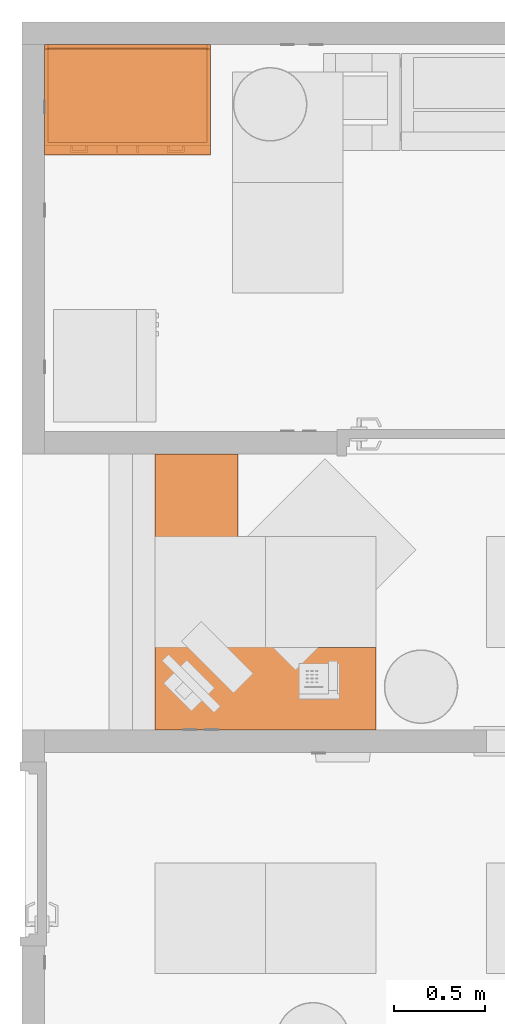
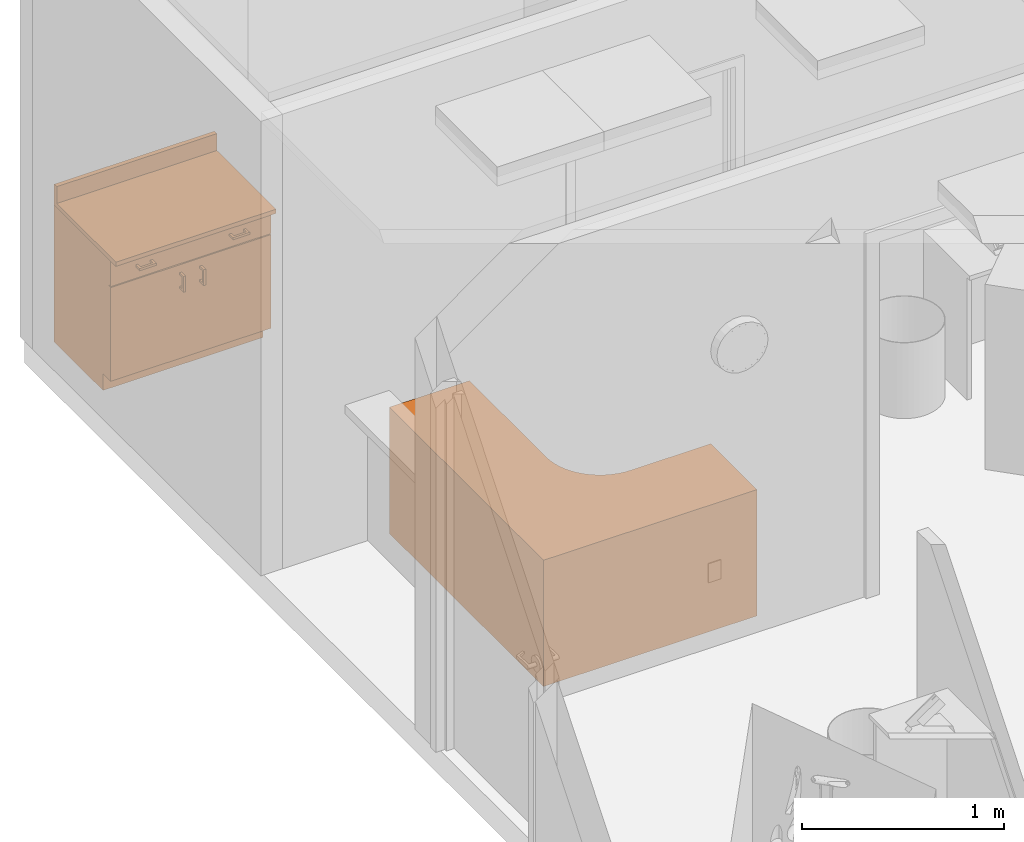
# One storey, part 11 of 20: 3 proxies.
"""IFC2X3 building model written with IfcOpenShell, lengths in feet."""

from ifc_helpers import new_model, entity, si_unit, converted_unit, derived_unit, direction, frame, frame_2d, origin, origin_2d_with_axis, place, context, subcontext, project, spatial, polyline, circle_curve, parameter, trimmed, segment, composite_curve, rectangle, outline, extrude, source, transform, mapped, type_object, type_shapes, element, save


model = new_model("IFC2X3")

# Units and contexts
model_context = context("Model", 3, precision=0.0001, world=origin(), true_north=direction((6.12303176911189e-17, 1.0)))
body_context = subcontext(model_context, "Body", "Model", "MODEL_VIEW")
ifc_project = project(units=[converted_unit("LENGTHUNIT", "FOOT", entity("IfcRatioMeasure", 0.3048), si_unit("LENGTHUNIT", "METRE"), dimensions=[1, 0, 0, 0, 0, 0, 0]), converted_unit("AREAUNIT", "SQUARE FOOT", entity("IfcRatioMeasure", 0.09290304), si_unit("AREAUNIT", "SQUARE_METRE"), dimensions=[2, 0, 0, 0, 0, 0, 0]), converted_unit("VOLUMEUNIT", "CUBIC FOOT", entity("IfcRatioMeasure", 0.028316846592), si_unit("VOLUMEUNIT", "CUBIC_METRE"), dimensions=[3, 0, 0, 0, 0, 0, 0]), converted_unit("PLANEANGLEUNIT", "DEGREE", entity("IfcRatioMeasure", 0.0174532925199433), si_unit("PLANEANGLEUNIT", "RADIAN"), dimensions=[0, 0, 0, 0, 0, 0, 0]), si_unit("MASSUNIT", "GRAM", prefix="KILO"), derived_unit("MASSDENSITYUNIT", [(si_unit("MASSUNIT", "GRAM", prefix="KILO"), 1), (si_unit("LENGTHUNIT", "METRE"), -3)]), si_unit("TIMEUNIT", "SECOND"), si_unit("FREQUENCYUNIT", "HERTZ"), si_unit("THERMODYNAMICTEMPERATUREUNIT", "DEGREE_CELSIUS"), derived_unit("THERMALTRANSMITTANCEUNIT", [(si_unit("MASSUNIT", "GRAM", prefix="KILO"), 1), (si_unit("THERMODYNAMICTEMPERATUREUNIT", "KELVIN"), -1), (si_unit("TIMEUNIT", "SECOND"), -3)]), derived_unit("VOLUMETRICFLOWRATEUNIT", [(si_unit("LENGTHUNIT", "METRE"), 3), (si_unit("TIMEUNIT", "SECOND"), -1)]), si_unit("ELECTRICCURRENTUNIT", "AMPERE"), si_unit("ELECTRICVOLTAGEUNIT", "VOLT"), si_unit("POWERUNIT", "WATT"), si_unit("FORCEUNIT", "NEWTON"), si_unit("ILLUMINANCEUNIT", "LUX"), si_unit("LUMINOUSFLUXUNIT", "LUMEN"), si_unit("LUMINOUSINTENSITYUNIT", "CANDELA"), derived_unit("USERDEFINED", [(si_unit("MASSUNIT", "GRAM", prefix="KILO"), -1), (si_unit("LENGTHUNIT", "METRE"), -2), (si_unit("TIMEUNIT", "SECOND"), 3), (si_unit("LUMINOUSFLUXUNIT", "LUMEN"), 1)]), derived_unit("LINEARVELOCITYUNIT", [(si_unit("LENGTHUNIT", "METRE"), 1), (si_unit("TIMEUNIT", "SECOND"), -1)]), si_unit("PRESSUREUNIT", "PASCAL"), derived_unit("USERDEFINED", [(si_unit("LENGTHUNIT", "METRE"), -2), (si_unit("MASSUNIT", "GRAM", prefix="KILO"), 1), (si_unit("TIMEUNIT", "SECOND"), -2)])], contexts=[model_context])

# Site, building, storey, space
site_placement = place(None, origin())
site = spatial("IfcSite", under=ifc_project, at=site_placement, Name="Default", CompositionType="ELEMENT")
building_placement = place(site_placement, origin())
building = spatial("IfcBuilding", under=site, at=building_placement, Name="OUTPATIENT / PACT CLINIC (Ch. 265)", CompositionType="ELEMENT")
storey_placement = place(building_placement, origin())
storey = spatial("IfcBuildingStorey", under=building, at=storey_placement, Name="DATUM", CompositionType="ELEMENT", Elevation=0.0)
space_1_placement = place(storey_placement, origin())
space_1 = spatial("IfcSpace", under=storey, at=space_1_placement, CompositionType="ELEMENT", InteriorOrExteriorSpace="INTERNAL")

# Proxy
building_element_proxy_type_1 = type_object("IfcBuildingElementProxyType", Name="CT020 - Countertop, Solid Surface - No Opening", PredefinedType="NOTDEFINED")
shared_shape_1 = source(origin(), body_context, "Body", "SweptSolid", [
    extrude(rectangle(XDim=2.99999999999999, YDim=0.083333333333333, at=frame_2d((0.0, -5.55111512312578e-17), x_axis=(1.0, 0.0))), frame((0.0, 0.958333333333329, 0.0833333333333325)), (0.0, 0.0, 1.0), 0.333333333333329),
    extrude(rectangle(XDim=2.99999999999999, YDim=2.0, at=origin_2d_with_axis()), origin(), (0.0, 0.0, 1.0), 0.0833333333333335),
])
type_shapes(building_element_proxy_type_1, [shared_shape_1])
proxy_1_placement = place(space_1_placement, frame((57.7641134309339, -843.112339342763, 2.70833333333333)))
element("IfcBuildingElementProxy", 1, at=proxy_1_placement, inside=space_1, type_object=building_element_proxy_type_1, Name="CT020 - Countertop, Solid Surface - No Opening:CT020 - Countertop, Solid Surface - No Opening", ObjectType="CT020 - Countertop, Solid Surface - No Opening", context=body_context, shape_type="MappedRepresentation", body=[
    mapped(shared_shape_1, transform((0.0, 0.0, 0.0), scale=1.0)),
])

# Space
space_2_placement = place(storey_placement, origin())
space_2 = spatial("IfcSpace", under=storey, at=space_2_placement, CompositionType="ELEMENT", InteriorOrExteriorSpace="INTERNAL")

# Proxies
building_element_proxy_type_2 = type_object("IfcBuildingElementProxyType", Name="E0130 - Workstation, Documentation, Operating, L-Shaped", PredefinedType="NOTDEFINED")
shared_shape_2 = source(origin(), body_context, "Body", "SweptSolid", [
    extrude(rectangle(XDim=0.0292050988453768, YDim=0.833333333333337, at=frame_2d((-5.55111512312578e-17, 0.0), x_axis=(1.0, 0.0))), frame((1.91666666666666, 0.621546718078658, 0.250000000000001), z_axis=(0.0, 0.0, 1.0), x_axis=(0.0, 1.0, 0.0)), (0.0, 0.0, 1.0), 1.83333333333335),
    extrude(outline(polyline([(-1.20833333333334, -0.583333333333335), (1.20833333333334, -0.583333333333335), (1.20833333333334, 0.583333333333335), (-1.20833333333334, 0.583333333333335), (-1.20833333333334, -0.583333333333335)]), holes=[polyline([(-0.875000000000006, -0.416666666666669), (-0.875000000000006, 0.416666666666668), (0.958333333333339, 0.416666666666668), (0.958333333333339, -0.416666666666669), (-0.875000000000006, -0.416666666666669)])]), frame((1.91666666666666, 0.583333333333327, 1.20833333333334), z_axis=(0.0, 1.0, 0.0), x_axis=(0.0, 0.0, -1.0)), (0.0, 0.0, 1.0), 0.0833333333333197),
    extrude(outline(polyline([(-0.305555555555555, 0.361111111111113), (0.694444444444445, 0.361111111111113), (0.694444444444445, 0.444444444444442), (-0.388888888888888, 0.444444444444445), (-0.388888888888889, -0.805555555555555), (-0.305555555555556, -0.805555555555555), (-0.305555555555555, 0.361111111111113)])), frame((1.72222222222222, 1.4722222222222, 0.0)), (0.0, 0.0, 1.0), 2.41666666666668),
    extrude(outline(polyline([(-1.86666666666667, -2.28333333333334), (2.13333333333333, -2.28333333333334), (2.13333333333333, -0.866666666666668), (2.05, -0.866666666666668), (2.05, -2.2), (-1.78333333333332, -2.20000000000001), (-1.78333333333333, 2.63333333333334), (-0.533333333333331, 2.63333333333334), (-0.53333333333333, 2.71666666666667), (-1.86666666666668, 2.71666666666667), (-1.86666666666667, -2.28333333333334)])), frame((-0.216666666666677, 0.133333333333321, 0.0), z_axis=(0.0, 0.0, 1.0), x_axis=(0.0, -1.0, 0.0)), (0.0, 0.0, 1.0), 2.41666666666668),
    extrude(outline(composite_curve([segment(polyline([(-2.78571428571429, -1.92857142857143), (2.21428571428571, -1.92857142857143)]), True, "CONTINUOUS"), segment(polyline([(2.21428571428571, -1.92857142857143), (2.21428571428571, 2.07142857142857)]), True, "CONTINUOUS"), segment(polyline([(2.21428571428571, 2.07142857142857), (0.714285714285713, 2.07142857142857)]), True, "CONTINUOUS"), segment(polyline([(0.714285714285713, 2.07142857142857), (0.714285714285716, 0.571428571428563)]), True, "CONTINUOUS"), segment(trimmed(circle_curve(frame_2d((-0.285714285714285, 0.571428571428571), x_axis=(-1.0, 0.0)), 1.0), [parameter(90.0)], [parameter(180.0)], True, "PARAMETER"), False, "CONTINUOUS"), segment(polyline([(-0.285714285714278, -0.428571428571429), (-2.78571428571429, -0.428571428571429)]), True, "CONTINUOUS"), segment(polyline([(-2.78571428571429, -0.428571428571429), (-2.78571428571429, -1.92857142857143)]), True, "CONTINUOUS")], self_intersect=False)), frame((-0.285714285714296, 0.07142857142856, 2.41666666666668), z_axis=(0.0, 0.0, 1.0), x_axis=(-1.0, 0.0, 0.0)), (0.0, 0.0, 1.0), 0.0833333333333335),
    extrude(rectangle(XDim=1.0, YDim=1.0, at=frame_2d((5.55111512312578e-17, 0.1), x_axis=(1.0, 0.0))), frame((-0.0999999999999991, 0.0, 0.0), z_axis=(0.0, 0.0, 1.0), x_axis=(0.0, -1.0, 0.0)), (0.0, 0.0, 1.0), 1.0),
])
type_shapes(building_element_proxy_type_2, [shared_shape_2])
proxy_2_placement = place(space_2_placement, frame((60.2641134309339, -852.018589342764, 0.0), z_axis=(0.0, 0.0, 1.0), x_axis=(0.0, 1.0, 0.0)))
element("IfcBuildingElementProxy", 2, at=proxy_2_placement, inside=space_2, type_object=building_element_proxy_type_2, Name="E0130 - Workstation, Documentation, Operating, L-Shaped:E0130 - Workstation, Documentation, Operating, L-Shaped", ObjectType="E0130 - Workstation, Documentation, Operating, L-Shaped", context=body_context, shape_type="MappedRepresentation", body=[
    mapped(shared_shape_2, transform((0.0, 0.0, 0.0), scale=1.0)),
])
building_element_proxy_type_3 = type_object("IfcBuildingElementProxyType", Name="C04F0 - Cabinet, U-C-B, 1 Shelf, 2 Half DR, 2 DO, 36x36x22", PredefinedType="NOTDEFINED")
shared_shape_3 = source(origin(), body_context, "Body", "SweptSolid", [
    extrude(rectangle(XDim=0.0625, YDim=1.50000000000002, at=origin_2d_with_axis()), frame((-0.750000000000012, -0.885416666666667, 0.333333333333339), z_axis=(0.0, 0.0, 1.0), x_axis=(0.0, 1.0, 0.0)), (0.0, 0.0, 1.0), 1.85416666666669),
    extrude(outline(polyline([(-0.15625, -0.0729036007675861), (0.15625, -0.0729036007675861), (0.15625, 0.0520963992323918), (0.114635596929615, 0.0520963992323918), (0.114635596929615, -0.0312891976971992), (-0.114635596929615, -0.0312891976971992), (-0.114635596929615, 0.0520963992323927), (-0.15625, 0.0520963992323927), (-0.15625, -0.0729036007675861)])), frame((-0.87499999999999, -0.968763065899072, 2.43223831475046)), (0.0, 0.0, 1.0), 0.0416666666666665),
    extrude(outline(polyline([(-0.0729036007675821, -0.15625), (0.0520963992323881, -0.15625), (0.0520963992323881, -0.114635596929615), (-0.0312891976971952, -0.114635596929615), (-0.0312891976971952, 0.114635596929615), (0.052096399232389, 0.114635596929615), (0.052096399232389, 0.15625), (-0.0729036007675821, 0.15625), (-0.0729036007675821, -0.15625)])), frame((0.875000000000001, -0.968763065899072, 2.43223831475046), z_axis=(0.0, 0.0, 1.0), x_axis=(0.0, 1.0, 0.0)), (0.0, 0.0, 1.0), 0.0416666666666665),
    extrude(rectangle(XDim=0.0625, YDim=1.49999999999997, at=origin_2d_with_axis()), frame((0.749999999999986, -0.885416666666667, 0.333333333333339), z_axis=(0.0, 0.0, 1.0), x_axis=(0.0, 1.0, 0.0)), (0.0, 0.0, 1.0), 1.8541666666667),
    extrude(outline(polyline([(-0.0729036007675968, -0.15625), (0.0520963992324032, -0.15625), (0.0520963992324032, -0.114635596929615), (-0.0312891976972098, -0.114635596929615), (-0.0312891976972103, 0.114635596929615), (0.0520963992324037, 0.114635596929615), (0.0520963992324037, 0.156250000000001), (-0.0729036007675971, 0.15625), (-0.0729036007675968, -0.15625)])), frame((0.16570383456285, -0.968763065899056, 1.87493797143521), z_axis=(1.0, 0.0, 0.0), x_axis=(0.0, 1.0, 0.0)), (0.0, 0.0, 1.0), 0.0416666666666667),
    extrude(outline(polyline([(-0.0729036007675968, -0.156250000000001), (0.0520963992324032, -0.156250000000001), (0.0520963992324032, -0.114635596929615), (-0.0312891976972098, -0.114635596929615), (-0.0312891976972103, 0.114635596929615), (0.0520963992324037, 0.114635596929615), (0.0520963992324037, 0.15625), (-0.0729036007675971, 0.15625), (-0.0729036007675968, -0.156250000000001)])), frame((-0.209296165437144, -0.968763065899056, 1.87493797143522), z_axis=(1.0, 0.0, 0.0), x_axis=(0.0, 1.0, 0.0)), (0.0, 0.0, 1.0), 0.0416666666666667),
    extrude(rectangle(XDim=0.0625, YDim=1.52083333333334, at=frame_2d((0.0, -5.55111512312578e-17), x_axis=(1.0, 0.0))), frame((-1.46875, 0.156250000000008, 0.0)), (0.0, 0.0, 1.0), 0.333333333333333),
    extrude(rectangle(XDim=0.0625, YDim=1.52083333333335, at=frame_2d((1.11022302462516e-16, 5.55111512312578e-17), x_axis=(1.0, 0.0))), frame((1.46875, 0.156250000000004, 0.0)), (0.0, 0.0, 1.0), 0.333333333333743),
    extrude(rectangle(XDim=0.0625, YDim=1.77083333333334, at=frame_2d((-2.22044604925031e-16, 5.55111512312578e-17), x_axis=(1.0, 0.0))), frame((1.46875, 0.0312500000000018, 0.333333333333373)), (0.0, 0.0, 1.0), 2.37489329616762),
    extrude(rectangle(XDim=0.0625, YDim=1.77083333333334, at=frame_2d((0.0, -5.55111512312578e-17), x_axis=(1.0, 0.0))), frame((-1.46875, 0.0312500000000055, 0.333333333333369)), (0.0, 0.0, 1.0), 2.37489329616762),
    extrude(rectangle(XDim=0.0625, YDim=1.5, at=frame_2d((5.55111512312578e-17, 1.11022302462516e-16), x_axis=(1.0, 0.0))), frame((0.749999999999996, -0.885416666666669, 2.20822662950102), z_axis=(0.0, 0.0, 1.0), x_axis=(0.0, 1.0, 0.0)), (0.0, 0.0, 1.0), 0.499999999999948),
    extrude(rectangle(XDim=0.0625, YDim=1.5, at=frame_2d((-5.55111512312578e-17, 0.0), x_axis=(1.0, 0.0))), frame((-0.750000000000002, -0.885416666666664, 2.20822662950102), z_axis=(0.0, 0.0, 1.0), x_axis=(0.0, 1.0, 0.0)), (0.0, 0.0, 1.0), 0.499999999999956),
    extrude(rectangle(XDim=0.0625, YDim=3.0, at=frame_2d((-5.55111512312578e-17, 1.11022302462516e-16), x_axis=(1.0, 0.0))), frame((0.0, -0.635416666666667, 0.0), z_axis=(0.0, 0.0, 1.0), x_axis=(0.0, 1.0, 0.0)), (0.0, 0.0, 1.0), 0.333333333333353),
    extrude(rectangle(XDim=0.0625, YDim=3.0, at=origin_2d_with_axis()), frame((0.0, 0.885416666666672, 0.0), z_axis=(0.0, 0.0, 1.0), x_axis=(0.0, 1.0, 0.0)), (0.0, 0.0, 1.0), 0.333333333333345),
    extrude(rectangle(XDim=2.875, YDim=1.70833333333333, at=origin_2d_with_axis()), frame((0.0, 0.0, 0.333333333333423), z_axis=(0.0, 0.0, 1.0), x_axis=(-1.0, 0.0, 0.0)), (0.0, 0.0, 1.0), 0.0627188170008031),
    extrude(rectangle(XDim=0.0625, YDim=2.875, at=origin_2d_with_axis()), frame((0.0, 0.885416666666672, 0.333333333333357), z_axis=(0.0, 0.0, 1.0), x_axis=(0.0, 1.0, 0.0)), (0.0, 0.0, 1.0), 2.31239329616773),
])
type_shapes(building_element_proxy_type_3, [shared_shape_3])
proxy_3_placement = place(space_1_placement, frame((57.7641134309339, -843.02900600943, 0.0)))
element("IfcBuildingElementProxy", 3, at=proxy_3_placement, inside=space_1, type_object=building_element_proxy_type_3, Name="C04F0 - Cabinet, U-C-B, 1 Shelf, 2 Half DR, 2 DO, 36x36x22:C04F0 - Cabinet, U-C-B, 1 Shelf, 2 Half DR, 2 DO, 36x36x22", ObjectType="C04F0 - Cabinet, U-C-B, 1 Shelf, 2 Half DR, 2 DO, 36x36x22", context=body_context, shape_type="MappedRepresentation", body=[
    mapped(shared_shape_3, transform((0.0, 0.0, 0.0), scale=1.0)),
])

save(model, "model.ifc")
